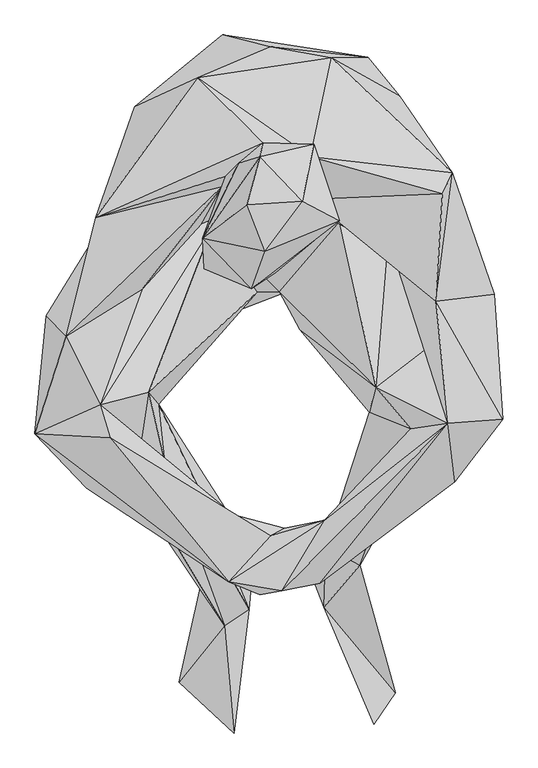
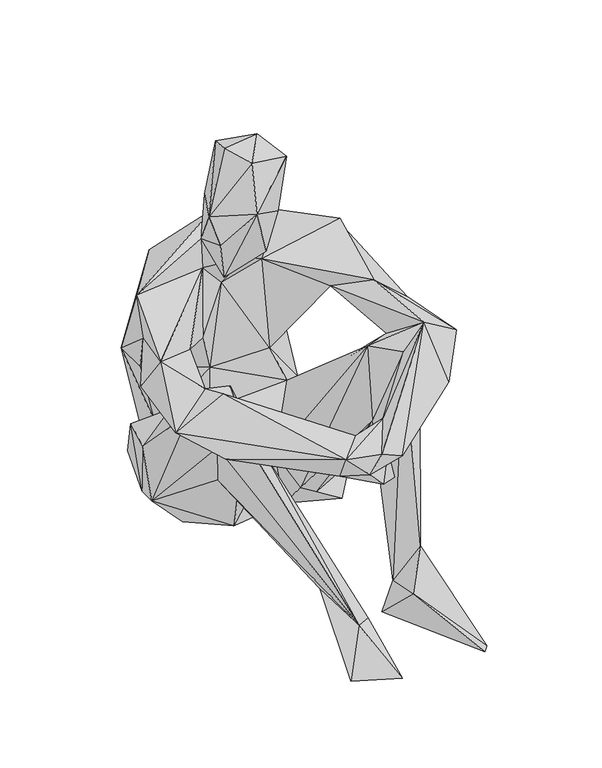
"""IFC4 building model written with IfcOpenShell, lengths in millimetres: geographic element geometry, Enscape AssetDefinition - Terrell sentado : Enscape AssetDefinition - Terrell sentado."""

from ifc_helpers import new_model, si_unit, origin, place, context, project, spatial, faceted_brep, source, transform, mapped, element, save


def geographic_element_2ea6dca1(model_context):
    return source(origin(), model_context, "Body", "Brep", [
        faceted_brep([(-69.9749514, 193.7704682, 305.7939708), (-196.3987201, 90.6900615, 365.6912148), (-1.1522083, 177.0258993, 471.1921811), (-144.8063105, 105.4798588, 154.4393301), (-173.1421798, -1.4537537, 237.7163023), (-252.1458864, -68.3381557, 611.2289429), (-105.9492007, 132.4640661, 551.8878102), (-233.2036793, -63.1884187, 495.4624772), (-183.2703501, 35.8780324, 347.2324014), (-104.5095176, 126.2700558, 112.0763123), (100.1646891, 77.6250511, 26.0373261), (63.4700209, 137.1573806, 104.6995968), (-182.8503013, 28.9905928, 41.7153388), (-190.9145862, 74.0733817, 117.7305877), (117.5909564, 117.0488745, 144.4695592), (157.4442238, 61.1597337, 164.8455858), (138.3260041, 162.1187627, 399.3469775), (183.69627, 106.5921858, 342.4299657), (174.9455929, 15.9091577, 210.2627754), (192.5067902, 13.5202613, 175.2659082), (65.4951781, -60.5108812, 365.8014834), (97.8884324, -73.9407986, 280.9440792), (173.6103445, -21.0248679, 219.0240175), (185.1523668, -176.4216423, 107.656382), (230.6493372, -249.9024719, 458.053261), (176.8147051, -0.5702375, 50.5903922), (150.0100195, -311.1689985, 492.9926395), (11.7919492, -173.9494354, 188.219443), (-83.813183, -78.2950222, 276.6625881), (-73.5418648, -59.125185, 364.5319641), (35.5236866, -169.4004387, 56.3033298), (41.0617925, -228.5784185, 128.0605644), (-20.1988444, -174.6569425, 150.4699588), (140.8650875, -346.868664, 332.8955173), (92.0851454, -195.6606805, 75.9870857), (140.7102197, -224.5750129, 64.6738559), (211.1673951, -417.8480208, 421.9206274), (203.8892508, -335.0814283, 280.1415026), (319.6638823, -177.8965145, 475.2307832), (253.2488108, -362.7966046, 545.6234813), (174.7109145, -117.6378876, 515.6343579), (199.9245733, -370.7482517, 496.2356985), (76.36372, -502.1539927, 454.900533), (127.242744, -566.4242506, 159.5233679), (78.2821178, -539.4846201, 74.3608475), (122.4227175, -495.7347214, 128.0805171), (75.7747069, -626.4563799, 95.2883288), (46.3042259, -550.5291224, 14.7240954), (92.1672806, -543.1418419, 3.7311837), (177.8296232, -749.279201, 4.7202995), (147.08139, -793.8597798, 27.0006284), (69.8599666, -592.120111, 418.0979133), (331.943959, -357.4121892, 496.2932169), (263.1200254, -446.647346, 445.5432296), (229.6684533, -40.1935317, 475.8725762), (259.7150207, -3.9658495, 576.3294697), (235.84719, -188.1408244, 551.7752171), (15.4574262, -602.5744081, 447.7115273), (56.8993799, -41.8995507, 577.5661469), (245.5951869, -33.8000692, 607.4367166), (56.5145276, 18.8635979, 673.3531356), (-12.276534, 39.2360985, 673.9996672), (85.9474689, 161.2059027, 527.8991461), (62.1793531, -100.4052162, 730.5235267), (61.443679, 36.7099196, 786.405623), (-42.7290946, -52.3409955, 560.8626008), (-10.7793659, -100.1846269, 640.6923532), (-100.2491638, -76.89289, 458.9520097), (-70.8901435, -23.8619763, 588.6012912), (-150.2247304, -27.474653, 268.3507204), (-185.4421794, -170.6899256, 515.9781575), (-213.5434002, 21.0354272, 225.3728956), (-208.7362707, -19.3939414, 191.6349977), (-161.2962484, -98.5748321, 35.5753116), (-208.3666772, -54.7111221, 78.4334764), (-257.2240531, -290.438652, 453.9982378), (-245.7172275, -336.3298476, 540.0208235), (-176.1306524, -318.2453513, 511.9324923), (-161.5485251, -335.5777562, 311.8389547), (-194.3888217, -440.7994449, 426.7605841), (-152.8975815, -417.2835946, 394.5105076), (-113.8949692, -226.6107351, 87.732099), (-220.6279486, -344.5337713, 310.6292486), (-246.4834154, -385.887742, 423.7158298), (-85.8629867, -526.2951851, 102.9008925), (-67.187123, -652.8304219, 82.8827322), (-339.2209113, -377.6755929, 488.4448349), (-265.0959194, -455.7254016, 444.5834756), (-294.0067351, -238.3147031, 564.0564561), (-323.2824504, -208.8184059, 495.9892929), (-54.2511791, -494.2516387, 424.3846238), (-231.2782407, -383.6232126, 550.4199862), (-61.4694953, -589.7616744, 453.2344341), (-1.3223409, -523.9896178, 452.034086), (18.8330896, -513.0248666, 395.9196806), (65.4893145, -540.5722857, 401.8343985), (71.2726489, -556.6269159, 343.2747722), (21.266574, -598.4020829, 368.2807386), (-16.0171036, -608.5056067, 410.7728302), (-63.4007901, -569.1768527, 400.1999795), (3.8860631, -510.8507276, 366.2227094), (-106.5018252, -450.7786334, 260.1362467), (-32.2078578, -629.355669, 74.1191432), (-132.0979893, -733.866334, 15.8235058), (-53.8346469, -806.8297505, 39.3041521), (-24.7466676, -548.9838719, 17.4227506), (-60.6575534, -528.8002491, 18.6277591), (-65.6547546, -8.561776, 649.5016813), (-16.2564628, 18.8682899, 858.849287), (-47.3367535, 9.6259853, 744.4403768), (-98.7977535, -98.0139822, 770.6760168), (-34.5920622, -49.4581312, 889.0437484), (44.8821522, -44.7601266, 893.7311769), (98.0362669, -72.6395771, 835.8567357), (-8.7319082, -116.2134707, 882.404983), (-28.2560904, -170.2698767, 795.7782149), (7.0211962, -146.3762224, 677.1934032), (-96.7491269, -141.122058, 723.6537337), (-83.499901, -131.821081, 636.1445189)], [[[0, 1, 2]], [[1, 3, 4]], [[5, 6, 1]], [[1, 7, 5]], [[1, 0, 3]], [[6, 2, 1]], [[8, 7, 1]], [[8, 1, 4]], [[9, 3, 0]], [[4, 3, 9]], [[10, 9, 11]], [[9, 10, 12]], [[9, 13, 4]], [[0, 11, 9]], [[12, 13, 9]], [[14, 11, 0]], [[10, 11, 15]], [[11, 14, 15]], [[0, 16, 14]], [[16, 17, 14]], [[17, 18, 14]], [[15, 14, 18]], [[10, 15, 19]], [[19, 15, 18]], [[17, 20, 18]], [[18, 20, 21]], [[18, 22, 19]], [[18, 21, 22]], [[23, 19, 24]], [[19, 23, 25]], [[25, 10, 19]], [[24, 19, 22]], [[22, 21, 26]], [[24, 22, 26]], [[21, 27, 26]], [[27, 21, 28]], [[21, 29, 28]], [[29, 21, 20]], [[27, 30, 31]], [[31, 26, 27]], [[28, 32, 27]], [[32, 30, 27]], [[33, 26, 31]], [[33, 31, 34]], [[30, 35, 31]], [[35, 34, 31]], [[23, 33, 34]], [[35, 23, 34]], [[35, 30, 23]], [[24, 36, 23]], [[23, 36, 37]], [[30, 25, 23]], [[33, 23, 37]], [[36, 24, 38]], [[39, 24, 26]], [[24, 39, 40]], [[40, 38, 24]], [[41, 39, 26]], [[41, 26, 33]], [[41, 36, 42]], [[43, 36, 41]], [[44, 41, 33]], [[44, 43, 41]], [[42, 39, 41]], [[45, 33, 37]], [[33, 45, 44]], [[46, 43, 44]], [[44, 47, 46]], [[47, 44, 48]], [[45, 48, 44]], [[37, 43, 45]], [[45, 43, 48]], [[49, 48, 43]], [[49, 47, 48]], [[37, 36, 43]], [[49, 43, 46]], [[50, 49, 46]], [[47, 50, 46]], [[50, 47, 49]], [[36, 51, 42]], [[36, 38, 52]], [[53, 36, 52]], [[36, 53, 51]], [[54, 38, 40]], [[38, 54, 55]], [[56, 38, 55]], [[52, 38, 56]], [[39, 53, 52]], [[56, 39, 52]], [[39, 51, 53]], [[39, 57, 51]], [[39, 56, 40]], [[57, 39, 42]], [[40, 56, 58]], [[58, 56, 59]], [[59, 56, 55]], [[58, 59, 60]], [[60, 59, 55]], [[6, 61, 60]], [[62, 60, 55]], [[62, 6, 60]], [[63, 58, 60]], [[63, 60, 64]], [[60, 61, 64]], [[61, 6, 5]], [[2, 6, 62]], [[62, 55, 17]], [[62, 17, 16]], [[62, 16, 2]], [[0, 2, 16]], [[54, 17, 55]], [[20, 17, 54]], [[20, 54, 40]], [[20, 58, 65]], [[40, 58, 20]], [[65, 29, 20]], [[58, 63, 66]], [[58, 66, 65]], [[65, 67, 29]], [[68, 65, 66]], [[68, 67, 65]], [[8, 69, 29]], [[29, 69, 28]], [[67, 8, 29]], [[67, 68, 70]], [[8, 67, 7]], [[70, 7, 67]], [[4, 69, 8]], [[71, 69, 4]], [[4, 13, 71]], [[71, 12, 72]], [[12, 71, 13]], [[71, 72, 69]], [[73, 12, 10]], [[12, 74, 72]], [[73, 74, 12]], [[74, 75, 72]], [[75, 69, 72]], [[69, 76, 28]], [[75, 76, 69]], [[28, 77, 32]], [[28, 76, 77]], [[78, 32, 77]], [[79, 77, 76]], [[80, 78, 77]], [[80, 77, 79]], [[32, 78, 81]], [[81, 30, 32]], [[81, 78, 74]], [[30, 81, 73]], [[74, 73, 81]], [[25, 30, 73]], [[25, 73, 10]], [[78, 82, 74]], [[75, 74, 83]], [[74, 82, 83]], [[84, 82, 78]], [[85, 83, 82]], [[84, 85, 82]], [[83, 86, 75]], [[87, 86, 83]], [[83, 85, 79]], [[83, 79, 87]], [[75, 86, 7]], [[7, 70, 75]], [[75, 70, 76]], [[88, 7, 89]], [[5, 7, 88]], [[89, 7, 86]], [[86, 88, 89]], [[76, 88, 86]], [[70, 68, 88]], [[88, 76, 70]], [[68, 5, 88]], [[79, 76, 90]], [[91, 76, 86]], [[76, 91, 90]], [[91, 86, 92]], [[91, 93, 90]], [[93, 91, 92]], [[94, 90, 93]], [[93, 92, 42]], [[93, 42, 94]], [[95, 94, 42]], [[95, 42, 51]], [[92, 57, 42]], [[94, 95, 96]], [[97, 95, 98]], [[51, 98, 95]], [[97, 96, 95]], [[98, 51, 57]], [[57, 92, 98]], [[99, 97, 98]], [[92, 99, 98]], [[97, 99, 94]], [[97, 94, 96]], [[87, 90, 99]], [[87, 99, 92]], [[94, 99, 100]], [[100, 99, 90]], [[100, 90, 94]], [[87, 79, 90]], [[87, 92, 86]], [[85, 80, 79]], [[101, 78, 80]], [[80, 102, 101]], [[85, 102, 80]], [[84, 103, 85]], [[85, 103, 104]], [[104, 102, 85]], [[105, 102, 104]], [[102, 105, 101]], [[105, 78, 101]], [[105, 84, 78]], [[105, 106, 84]], [[84, 106, 103]], [[103, 105, 104]], [[103, 106, 105]], [[107, 5, 68]], [[68, 66, 107]], [[107, 61, 5]], [[61, 108, 64]], [[61, 109, 108]], [[109, 61, 107]], [[108, 109, 110]], [[108, 110, 111]], [[108, 112, 64]], [[108, 111, 112]], [[63, 64, 113]], [[113, 64, 112]], [[113, 112, 114]], [[114, 112, 111]], [[111, 110, 114]], [[115, 113, 114]], [[114, 110, 115]], [[63, 113, 115]], [[63, 116, 66]], [[63, 115, 116]], [[115, 117, 118]], [[115, 110, 117]], [[115, 118, 116]], [[118, 66, 116]], [[118, 107, 66]], [[118, 117, 107]], [[110, 107, 117]], [[110, 109, 107]]]),
    ])


if __name__ == "__main__":
    model = new_model("IFC4")
    model_context = context("Model", 3, world=origin())
    ifc_project = project(units=[si_unit("LENGTHUNIT", "METRE", prefix="MILLI")], contexts=[model_context])
    site = spatial("IfcSite", under=ifc_project)
    building = spatial("IfcBuilding", under=site)
    placement = place(None, origin())
    geographic_element_shape = geographic_element_2ea6dca1(model_context)
    element("IfcGeographicElement", 1, ObjectType="Enscape AssetDefinition - Terrell sentado : Enscape AssetDefinition - Terrell sentado", at=placement, inside=building, context=model_context, shape_type="MappedRepresentation", body=[
        mapped(geographic_element_shape, transform((0.0, 0.0, 0.0), x_axis=(1.0, 0.0, 0.0), y_axis=(0.0, 1.0, 0.0), z_axis=(0.0, 0.0, 1.0))),
    ])
    save(model, "model.ifc")
